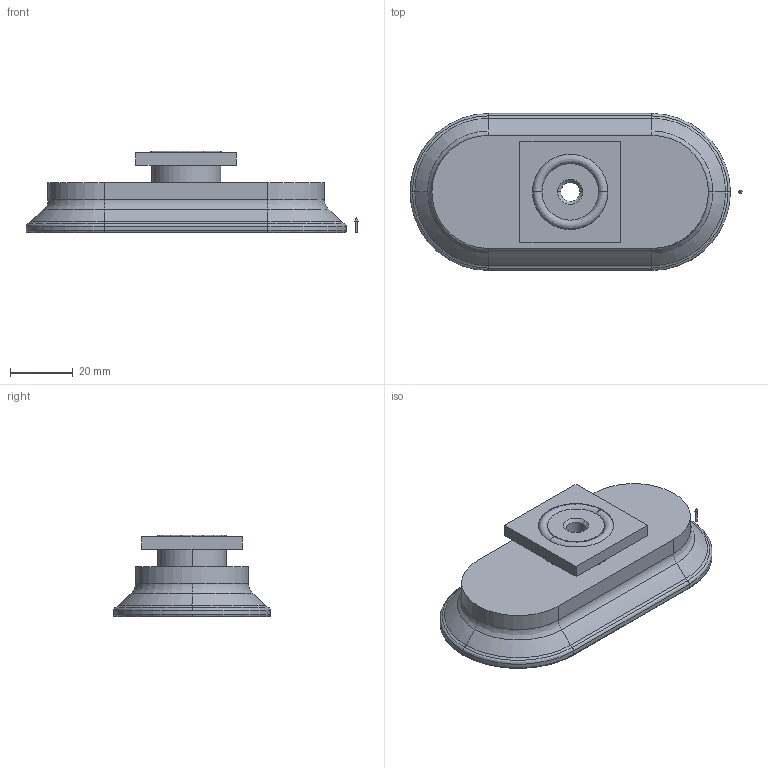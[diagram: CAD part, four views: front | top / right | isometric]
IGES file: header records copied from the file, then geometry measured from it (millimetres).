
Start section: 3D InterOp IGES (v. 2018 1.0.2), Spatial Corp. Copyright (c) 1999-2017.
Global section: file name: schmalz_10_01_05_00302_4r37a1u0nud8649znzxrm5d3f.igs; native system: Spatial Corp.; preprocessor: 3D InterOp ACIS/IGES; author: TraceParts; organization: TraceParts S.A.; date: 20181101.013958; units: millimetre
Bounding box: 105.7 x 50 x 26 mm (x, y, z)
Surface area: 15733.3 mm2 (no closed solid volume)
Topology: 0 solids, 0 shells, 89 faces, 378 edges, 376 vertices
Faces by surface type: revolution 70, extrusion 19
